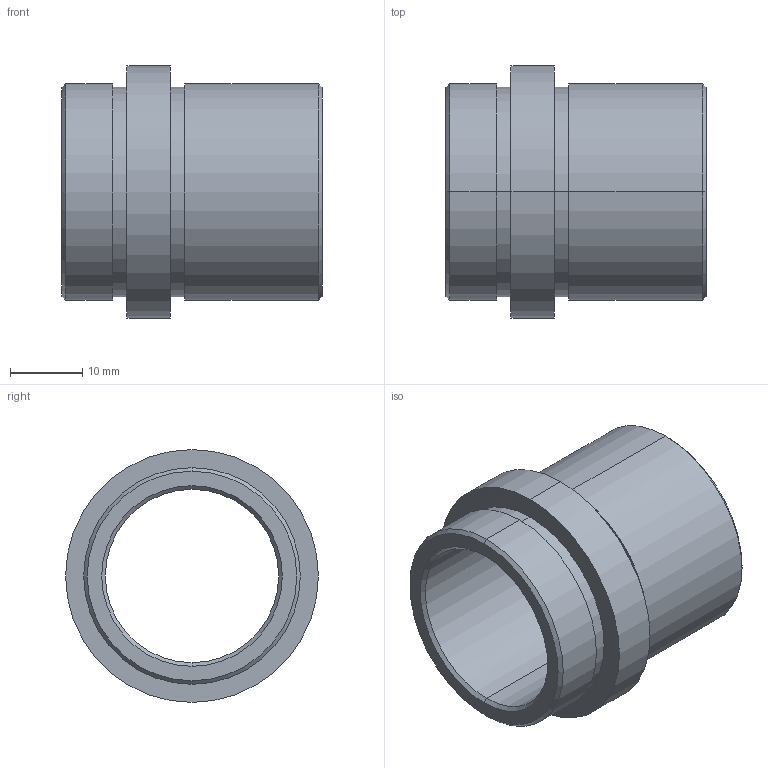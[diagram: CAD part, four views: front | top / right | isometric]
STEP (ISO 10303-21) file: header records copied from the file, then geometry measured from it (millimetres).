
FILE_DESCRIPTION( ( 'STEP AP203' ), '1' );
FILE_NAME( 'D:/Delta 3 D/D21/D21 - 24x27.step', '2002-12-31T22:49:11', ( ' ' ), ( ' ' ), 'XStep 1.0', ' ', ' ' );
FILE_SCHEMA( ( 'CONFIG_CONTROL_DESIGN' ) );
Length unit declared in the file: metre
Products named in the file (1): 1
Bounding box: 36 x 35 x 35 mm (x, y, z)
Volume: 10464.6 mm3; surface area: 7294.4 mm2
Topology: 1 solids, 1 shells, 26 faces, 52 edges, 32 vertices
Faces by surface type: revolution 20, bspline 6
Entity records: 773 total; most frequent: CARTESIAN_POINT 169, DIRECTION 106, ORIENTED_EDGE 104, EDGE_CURVE 52, AXIS2_PLACEMENT_3D 33, EDGE_LOOP 32, VERTEX_POINT 32, CIRCLE 32
